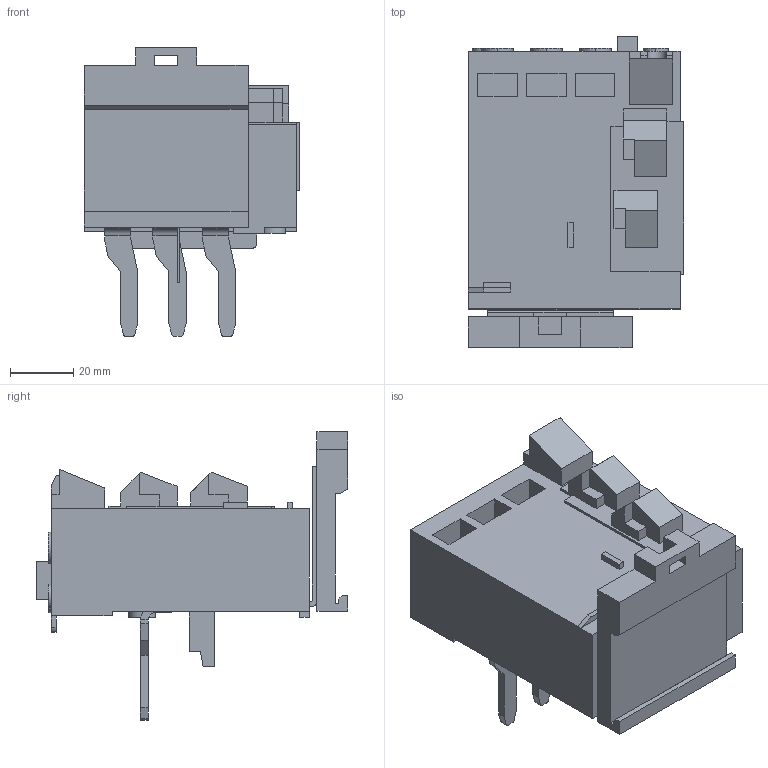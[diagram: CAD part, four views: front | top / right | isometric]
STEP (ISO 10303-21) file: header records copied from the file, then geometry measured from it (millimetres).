
FILE_DESCRIPTION (( 'STEP AP203' ), '1' );
FILE_NAME ('U3-42.STEP', '2014-04-29T09:23:30', ( '' ), ( '' ), 'SwSTEP 2.0', 'SolidWorks 2014', '' );
FILE_SCHEMA (( 'CONFIG_CONTROL_DESIGN' ));
Length unit declared in the file: millimetre
Products named in the file (6): U3-42; Montagewinkel; Tragplatte; Stützwinkel; Anschlusswinkel
Assembly tree (7 placements, depth 2):
  U3-42
    U3-42
    Montagewinkel
    Tragplatte
    Stützwinkel
    Anschlusswinkel  x3
Bounding box: 68.4 x 98.9 x 91.7 mm (x, y, z)
Volume: 198577.4 mm3; surface area: 45336 mm2
Topology: 8 solids, 8 shells, 404 faces, 1010 edges, 648 vertices
Faces by surface type: plane 323, cylinder 81
Entity records: 10348 total; most frequent: CARTESIAN_POINT 1702, ORIENTED_EDGE 1648, DIRECTION 1608, EDGE_CURVE 824, VECTOR 700, LINE 700, VERTEX_POINT 540, AXIS2_PLACEMENT_3D 454
